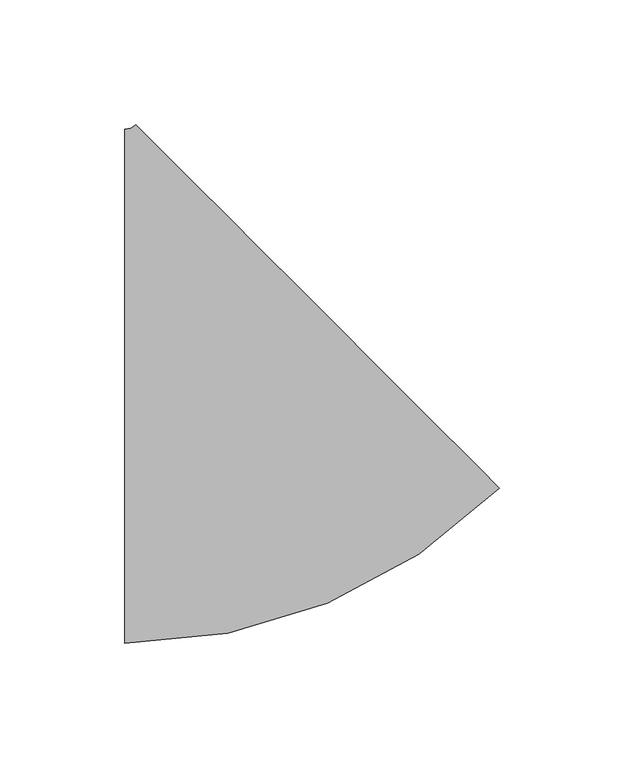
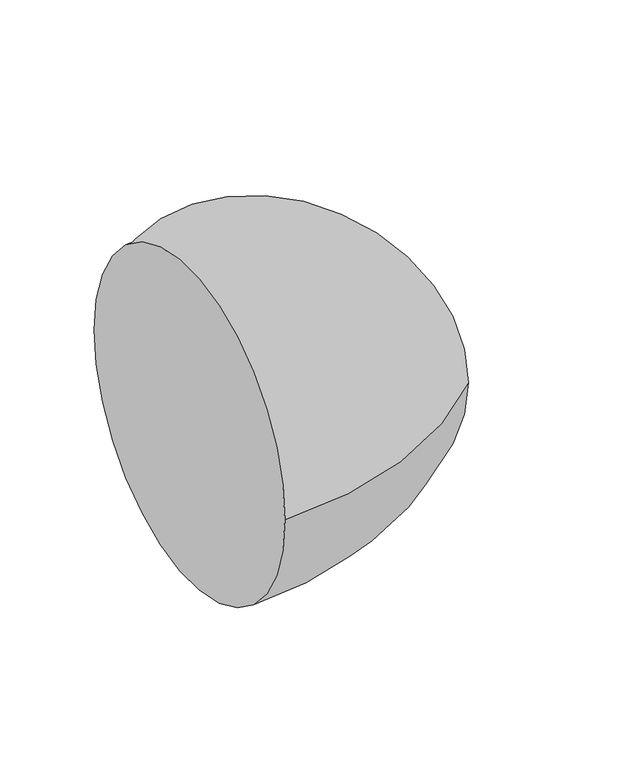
"""IFC4 building model written with IfcOpenShell, lengths in millimetres: pipe fitting geometry, M_Codo - Genérico : Estándar."""

from ifc_helpers import new_model, si_unit, point, frame, origin, place, context, project, spatial, circle_curve, ellipse_curve, trimmed, source, transform, mapped, element, save
from ifc_brep_helpers import plane_surface, revolved_surface, advanced_brep


def pipe_fitting_ae9a0cda(model_context):
    return source(origin(), model_context, "Body", "AdvancedBrep", [
        advanced_brep(
        [(-45.3692605, -103.1875, 0.0), (-45.3692605, 103.1875, 0.0), (105.0437993, -40.88802, 0.0), (-40.8793184, 105.047186, 0.0)],
        [
            (0, 1, circle_curve(frame((-45.3692605, 0.0, 0.0), z_axis=(-1.0, 0.0, 0.0), x_axis=(0.0, 1.0, 0.0)), 103.1875)),
            (1, 0, circle_curve(frame((-45.3692605, 0.0, 0.0), z_axis=(-1.0, 0.0, 0.0), x_axis=(0.0, 1.0, 0.0)), 103.1875)),
            (2, 3, circle_curve(frame((32.0822405, 32.079583, 0.0), z_axis=(0.7071360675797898, 0.7070774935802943, 0.0), x_axis=(-0.7070774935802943, 0.7071360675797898, 0.0)), 103.1875)),
            (3, 2, circle_curve(frame((32.0822405, 32.079583, 0.0), z_axis=(0.7071360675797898, 0.7070774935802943, 0.0), x_axis=(-0.7070774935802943, 0.7071360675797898, 0.0)), 103.1875)),
            (3, 1, circle_curve(frame((-45.3692605, 109.5375, 0.0), z_axis=(0.0, 0.0, -1.0), x_axis=(0.0, -1.0, 0.0)), 6.35)),
            (0, 2, circle_curve(frame((-45.3692605, 109.5375, 0.0), z_axis=(0.0, 0.0, 1.0), x_axis=(0.0, -1.0, 0.0)), 212.725)),
        ],
        [
            plane_surface(frame((-45.3692605, 0.0, 0.0), z_axis=(-1.0, 0.0, 0.0), x_axis=(0.0, 0.0, 1.0))),
            plane_surface(frame((32.0822405, 32.079583, 0.0), z_axis=(0.7071360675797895, 0.7070774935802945, 0.0), x_axis=(0.0, 0.0, 1.0))),
            revolved_surface(trimmed(ellipse_curve(frame((-45.3692605, 0.0, 0.0), z_axis=(-1.0, 0.0, 0.0), x_axis=(0.0, 1.0, 0.0)), 103.1875, 103.1875), [point((-45.3692605, -103.1875, 0.0))], [point((-45.3692605, 103.1875, 0.0))], True, "CARTESIAN"), (-45.3692605, 109.5375, 0.0), (0.0, 0.0, 1.0)),
            revolved_surface(trimmed(ellipse_curve(frame((-45.3692605, 0.0, 0.0), z_axis=(-1.0, 0.0, 0.0), x_axis=(0.0, 1.0, 0.0)), 103.1875, 103.1875), [point((-45.3692605, 103.1875, 0.0))], [point((-45.3692605, -103.1875, 0.0))], True, "CARTESIAN"), (-45.3692605, 109.5375, 0.0), (0.0, 0.0, 1.0)),
        ],
        [
            (0, [[1, 2]]),
            (1, [[3, 4]]),
            (2, [[5, -1, 6, -4]]),
            (3, [[-6, -2, -5, -3]]),
        ],
    ),
    ])


if __name__ == "__main__":
    model = new_model("IFC4")
    model_context = context("Model", 3, world=origin())
    ifc_project = project(units=[si_unit("LENGTHUNIT", "METRE", prefix="MILLI")], contexts=[model_context])
    site = spatial("IfcSite", under=ifc_project)
    building = spatial("IfcBuilding", under=site)
    placement = place(None, origin())
    pipe_fitting_shape = pipe_fitting_ae9a0cda(model_context)
    element("IfcPipeFitting", 1, ObjectType="M_Codo - Genérico : Estándar", at=placement, inside=building, context=model_context, shape_type="MappedRepresentation", body=[
        mapped(pipe_fitting_shape, transform((0.0, 0.0, 0.0), x_axis=(1.0, 0.0, 0.0), y_axis=(0.0, 1.0, 0.0), z_axis=(0.0, 0.0, 1.0))),
    ])
    save(model, "model.ifc")
